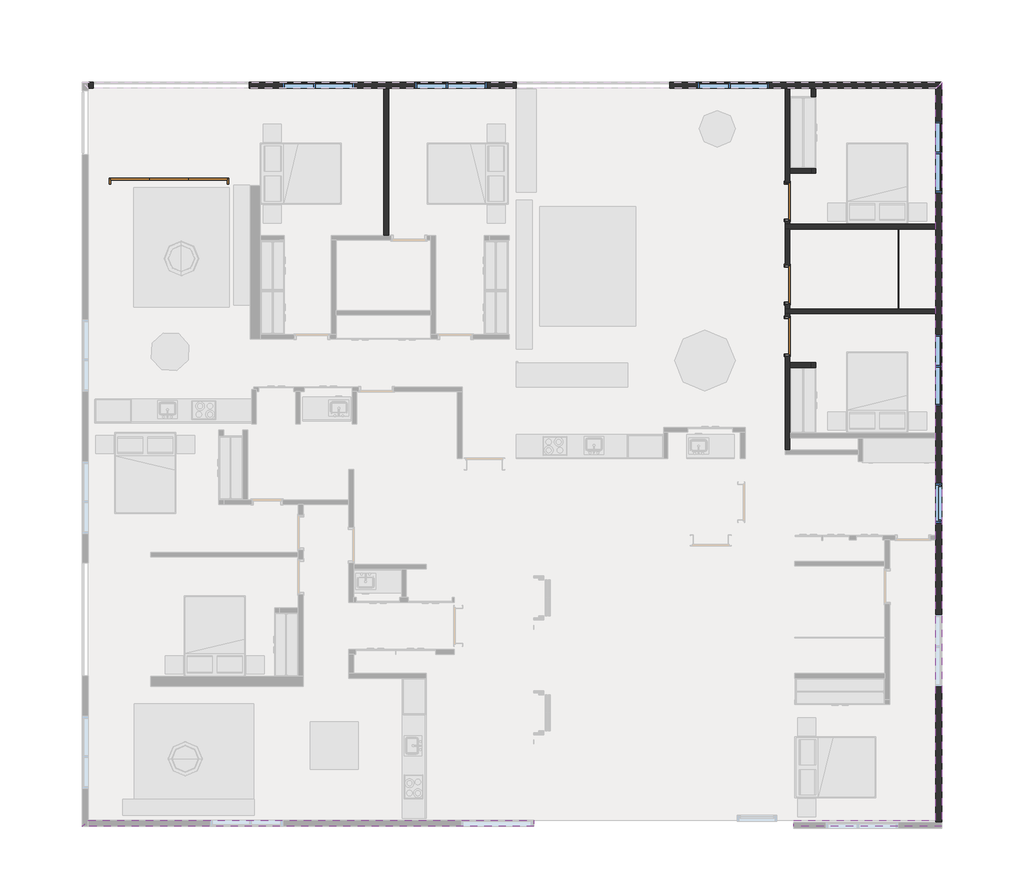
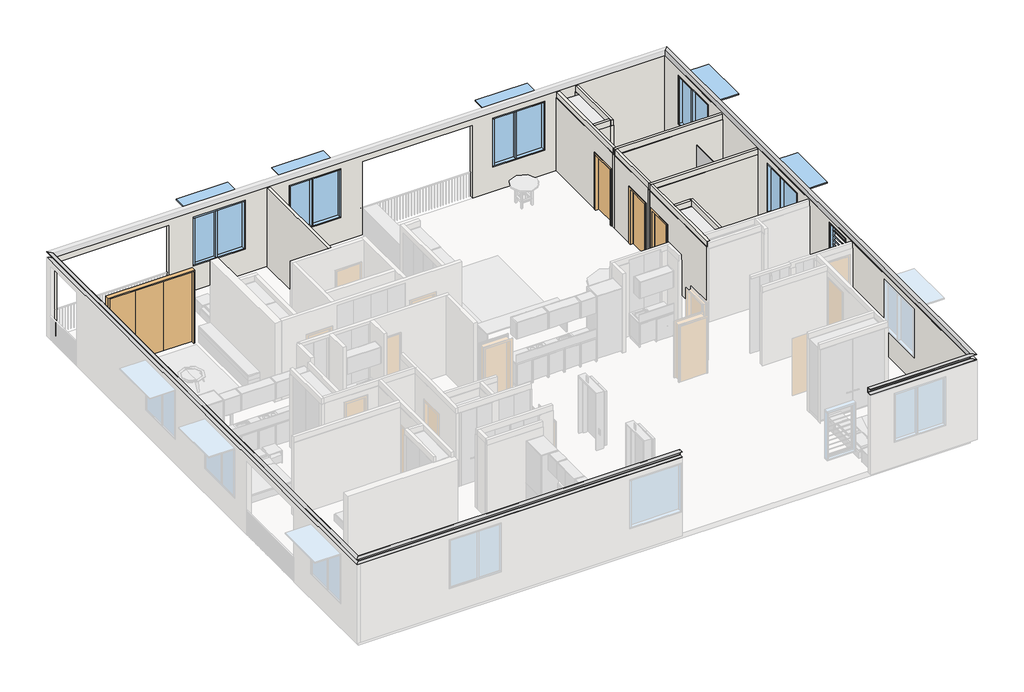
# One storey, part 3 of 5: 12 walls, 6 windows, 4 doors, 2 proxies, 1 plate.
"""IFC4 building model written with IfcOpenShell, lengths in millimetres."""

from ifc_helpers import new_model, si_unit, frame, origin, place, context, project, spatial, polyline, circle_curve, ellipse_curve, outline, extrude, faceted_brep, transform, mapped, element, save
from ifc_brep_helpers import plane_surface, revolved_surface, advanced_brep
from components import bi_fold_dor_3_panel_3000_dd6e1ca5, swing_metal_frame_single_dor_5afc5809, swing_metal_frame_single_dor_3c4be974, system_panel_glazed_1ea69d37, window_bottom_hung_window_bottom_hung_09912109, window_louvre_window_louvre_105a682d

model = new_model("IFC4")

# Units and contexts
model_context = context("Model", 3, world=origin())
ifc_project = project(units=[si_unit("LENGTHUNIT", "METRE", prefix="MILLI")], contexts=[model_context])

# Site, building, storey
site = spatial("IfcSite", under=ifc_project)
building = spatial("IfcBuilding", under=site)
storey = spatial("IfcBuildingStorey", under=building, Name="10階", Elevation=57800.0)

# Proxies
placement = place(None, origin())
element("IfcBuildingElementProxy", 1, Name="Slab Edge_PFC'", ObjectType="Slab Edge_PFC'", at=placement, inside=storey, context=model_context, shape_type="AdvancedBrep", body=[
    advanced_brep(
    [(23783.6171203, 18560.0, 60700.0), (23783.6171203, 18560.0, 60900.0), (23933.6171203, 18710.0, 60900.0), (23933.6171203, 18710.0, 60888.0), (23801.6171203, 18578.0, 60888.0), (23789.6171203, 18566.0, 60876.0), (23789.6171203, 18566.0, 60724.0), (23801.6171203, 18578.0, 60712.0), (23933.6171203, 18710.0, 60712.0), (23933.6171203, 18710.0, 60700.0), (23783.6171203, 189.0898177, 60700.0), (23783.6171203, 189.0898177, 60900.0), (23933.6171203, 39.0898177, 60700.0), (23933.6171203, 39.0898177, 60712.0), (23801.6171203, 171.0898177, 60712.0), (23789.6171203, 183.0898177, 60724.0), (23789.6171203, 183.0898177, 60876.0), (23801.6171203, 171.0898177, 60888.0), (23933.6171203, 39.0898177, 60888.0), (23933.6171203, 39.0898177, 60900.0), (20219.6062665, 189.0898177, 60900.0), (20219.6062665, 189.0898177, 60700.0), (20219.6062665, 39.0898177, 60700.0), (20219.6062665, 39.0898177, 60712.0), (20219.6062665, 171.0898177, 60712.0), (20219.6062665, 183.0898177, 60724.0), (20219.6062665, 183.0898177, 60876.0), (20219.6062665, 171.0898177, 60888.0), (20219.6062665, 39.0898177, 60888.0), (20219.6062665, 39.0898177, 60900.0)],
    [
        (0, 1),
        (1, 2),
        (2, 3),
        (3, 4),
        (4, 5, ellipse_curve(frame((23801.6171203, 18578.0, 60876.0), z_axis=(0.7071067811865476, -0.7071067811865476, 0.0), x_axis=(0.7071067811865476, 0.7071067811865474, 0.0)), 16.9705627, 12.0)),
        (5, 6),
        (6, 7, ellipse_curve(frame((23801.6171203, 18578.0, 60724.0), z_axis=(0.7071067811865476, -0.7071067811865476, 0.0), x_axis=(0.7071067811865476, 0.7071067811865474, 0.0)), 16.9705627, 12.0)),
        (7, 8),
        (8, 9),
        (9, 0),
        (10, 11),
        (11, 1),
        (0, 10),
        (12, 10),
        (9, 12),
        (13, 12),
        (8, 13),
        (14, 13),
        (7, 14),
        (15, 14, ellipse_curve(frame((23801.6171203, 171.0898177, 60724.0), z_axis=(-0.7071067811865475, -0.7071067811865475, 0.0), x_axis=(-0.7071067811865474, 0.7071067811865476, 0.0)), 16.9705627, 12.0)),
        (6, 15),
        (16, 15),
        (5, 16),
        (17, 16, ellipse_curve(frame((23801.6171203, 171.0898177, 60876.0), z_axis=(-0.7071067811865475, -0.7071067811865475, 0.0), x_axis=(-0.7071067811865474, 0.7071067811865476, 0.0)), 16.9705627, 12.0)),
        (4, 17),
        (18, 17),
        (3, 18),
        (19, 18),
        (2, 19),
        (11, 19),
        (20, 21),
        (21, 22),
        (22, 23),
        (23, 24),
        (24, 25, circle_curve(frame((20219.6062665, 171.0898177, 60724.0), z_axis=(1.0, 0.0, 0.0), x_axis=(0.0, -1.0, 0.0)), 12.0)),
        (25, 26),
        (26, 27, circle_curve(frame((20219.6062665, 171.0898177, 60876.0), z_axis=(1.0, 0.0, 0.0), x_axis=(0.0, -1.0, 0.0)), 12.0)),
        (27, 28),
        (28, 29),
        (29, 20),
        (10, 21),
        (20, 11),
        (12, 22),
        (13, 23),
        (14, 24),
        (15, 25),
        (16, 26),
        (17, 27),
        (18, 28),
        (19, 29),
    ],
    [
        plane_surface(frame((23783.6171203, 18560.0, 60900.0), z_axis=(-0.7071067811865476, 0.7071067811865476, 0.0), x_axis=(-0.7071067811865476, -0.7071067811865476, 0.0))),
        plane_surface(frame((23783.6171203, 189.0898177, 60900.0), z_axis=(-1.0, 0.0, 0.0), x_axis=(0.0, 1.0, 0.0))),
        plane_surface(frame((23783.6171203, 189.0898177, 60700.0), z_axis=(0.0, 0.0, -1.0), x_axis=(0.0, 1.0, 0.0))),
        plane_surface(frame((23933.6171203, 39.0898177, 60700.0), z_axis=(1.0, 0.0, 0.0), x_axis=(0.0, 1.0, 0.0))),
        plane_surface(frame((23933.6171203, 39.0898177, 60712.0), z_axis=(0.0, 0.0, 1.0), x_axis=(0.0, 1.0, 0.0))),
        revolved_surface(polyline([(23813.6171203, 18589.999999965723, 60724.0), (23813.6171203, 159.0898177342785, 60724.0)]), (23801.6171203, 189.0898177, 60724.0), (0.0, 1.0, 0.0)),
        plane_surface(frame((23789.6171203, 183.0898177, 60724.0), z_axis=(1.0, 0.0, 0.0), x_axis=(0.0, 1.0, 0.0))),
        revolved_surface(polyline([(23813.6171203, 18589.999999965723, 60876.0), (23813.6171203, 159.0898177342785, 60876.0)]), (23801.6171203, 189.0898177, 60876.0), (0.0, 1.0, 0.0)),
        plane_surface(frame((23801.6171203, 171.0898177, 60888.0), z_axis=(0.0, 0.0, -1.0), x_axis=(0.0, 1.0, 0.0))),
        plane_surface(frame((23933.6171203, 39.0898177, 60888.0), z_axis=(1.0, 0.0, 0.0), x_axis=(0.0, 1.0, 0.0))),
        plane_surface(frame((23933.6171203, 39.0898177, 60900.0), z_axis=(0.0, 0.0, 1.0), x_axis=(0.0, 1.0, 0.0))),
        plane_surface(frame((20219.6062665, 189.0898177, 60650.0), z_axis=(-1.0, 0.0, 0.0), x_axis=(0.0, 1.0, 0.0))),
        plane_surface(frame((20219.6062665, 189.0898177, 60900.0), z_axis=(0.0, 1.0, 0.0), x_axis=(1.0, 0.0, 0.0))),
        plane_surface(frame((20219.6062665, 189.0898177, 60700.0), z_axis=(0.0, 0.0, -1.0), x_axis=(1.0, 0.0, 0.0))),
        plane_surface(frame((20219.6062665, 39.0898177, 60700.0), z_axis=(0.0, -1.0, 0.0), x_axis=(1.0, 0.0, 0.0))),
        plane_surface(frame((20219.6062665, 39.0898177, 60712.0), z_axis=(0.0, 0.0, 1.0), x_axis=(1.0, 0.0, 0.0))),
        revolved_surface(polyline([(23813.617120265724, 159.0898177, 60724.0), (20219.6062665, 159.0898177, 60724.0)]), (20219.6062665, 171.0898177, 60724.0), (1.0, 0.0, 0.0)),
        plane_surface(frame((20219.6062665, 183.0898177, 60724.0), z_axis=(0.0, -1.0, 0.0), x_axis=(1.0, 0.0, 0.0))),
        revolved_surface(polyline([(23813.617120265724, 159.0898177, 60876.0), (20219.6062665, 159.0898177, 60876.0)]), (20219.6062665, 171.0898177, 60876.0), (1.0, 0.0, 0.0)),
        plane_surface(frame((20219.6062665, 171.0898177, 60888.0), z_axis=(0.0, 0.0, -1.0), x_axis=(1.0, 0.0, 0.0))),
        plane_surface(frame((20219.6062665, 39.0898177, 60888.0), z_axis=(0.0, -1.0, 0.0), x_axis=(1.0, 0.0, 0.0))),
        plane_surface(frame((20219.6062665, 39.0898177, 60900.0), z_axis=(0.0, 0.0, 1.0), x_axis=(1.0, 0.0, 0.0))),
    ],
    [
        (0, [[1, 2, 3, 4, 5, 6, 7, 8, 9, 10]]),
        (1, [[11, 12, -1, 13]]),
        (2, [[14, -13, -10, 15]]),
        (3, [[16, -15, -9, 17]]),
        (4, [[18, -17, -8, 19]]),
        (5, [[20, -19, -7, 21]]),
        (6, [[22, -21, -6, 23]]),
        (7, [[24, -23, -5, 25]]),
        (8, [[26, -25, -4, 27]]),
        (9, [[28, -27, -3, 29]]),
        (10, [[30, -29, -2, -12]]),
        (11, [[31, 32, 33, 34, 35, 36, 37, 38, 39, 40]]),
        (12, [[-11, 41, -31, 42]]),
        (13, [[-14, 43, -32, -41]]),
        (14, [[-16, 44, -33, -43]]),
        (15, [[-18, 45, -34, -44]]),
        (16, [[-20, 46, -35, -45]]),
        (17, [[-22, 47, -36, -46]]),
        (18, [[-24, 48, -37, -47]]),
        (19, [[-26, 49, -38, -48]]),
        (20, [[-28, 50, -39, -49]]),
        (21, [[-30, -42, -40, -50]]),
    ],
),
    advanced_brep(
    [(2519.6057353, 18560.0, 60900.0), (2519.6057353, 18560.0, 60700.0), (2369.6057353, 18710.0, 60700.0), (2369.6057353, 18710.0, 60712.0), (2501.6057353, 18578.0, 60712.0), (2513.6057353, 18566.0, 60724.0), (2513.6057353, 18566.0, 60876.0), (2501.6057353, 18578.0, 60888.0), (2369.6057353, 18710.0, 60888.0), (2369.6057353, 18710.0, 60900.0), (2519.6057353, 189.0898177, 60700.0), (2519.6057353, 189.0898177, 60900.0), (2369.6057353, 39.0898177, 60900.0), (2369.6057353, 39.0898177, 60888.0), (2501.6057353, 171.0898177, 60888.0), (2513.6057353, 183.0898177, 60876.0), (2513.6057353, 183.0898177, 60724.0), (2501.6057353, 171.0898177, 60712.0), (2369.6057353, 39.0898177, 60712.0), (2369.6057353, 39.0898177, 60700.0)],
    [
        (0, 1),
        (1, 2),
        (2, 3),
        (3, 4),
        (4, 5, ellipse_curve(frame((2501.6057353, 18578.0, 60724.0), z_axis=(-0.7071067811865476, -0.7071067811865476, 0.0), x_axis=(0.7071067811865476, -0.7071067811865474, 0.0)), 16.9705627, 12.0)),
        (5, 6),
        (6, 7, ellipse_curve(frame((2501.6057353, 18578.0, 60876.0), z_axis=(-0.7071067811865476, -0.7071067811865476, 0.0), x_axis=(0.7071067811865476, -0.7071067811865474, 0.0)), 16.9705627, 12.0)),
        (7, 8),
        (8, 9),
        (9, 0),
        (10, 11),
        (11, 12),
        (12, 13),
        (13, 14),
        (14, 15, ellipse_curve(frame((2501.6057353, 171.0898177, 60876.0), z_axis=(-0.7071067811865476, 0.7071067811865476, 0.0), x_axis=(-0.7071067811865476, -0.7071067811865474, 0.0)), 16.9705627, 12.0)),
        (15, 16),
        (16, 17, ellipse_curve(frame((2501.6057353, 171.0898177, 60724.0), z_axis=(-0.7071067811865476, 0.7071067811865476, 0.0), x_axis=(-0.7071067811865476, -0.7071067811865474, 0.0)), 16.9705627, 12.0)),
        (17, 18),
        (18, 19),
        (19, 10),
        (0, 11),
        (10, 1),
        (19, 2),
        (18, 3),
        (17, 4),
        (16, 5),
        (15, 6),
        (14, 7),
        (13, 8),
        (12, 9),
    ],
    [
        plane_surface(frame((2519.6057353, 18560.0, 60900.0), z_axis=(0.7071067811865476, 0.7071067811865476, 0.0), x_axis=(-0.7071067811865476, 0.7071067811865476, 0.0))),
        plane_surface(frame((2519.6057353, 189.0898177, 60900.0), z_axis=(0.7071067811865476, -0.7071067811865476, 0.0), x_axis=(0.7071067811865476, 0.7071067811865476, 0.0))),
        plane_surface(frame((2519.6057353, 18560.0, 60900.0), z_axis=(1.0, 0.0, 0.0), x_axis=(0.0, -1.0, 0.0))),
        plane_surface(frame((2519.6057353, 18560.0, 60700.0), z_axis=(0.0, 0.0, -1.0), x_axis=(0.0, -1.0, 0.0))),
        plane_surface(frame((2369.6057353, 18710.0, 60700.0), z_axis=(-1.0, 0.0, 0.0), x_axis=(0.0, -1.0, 0.0))),
        plane_surface(frame((2369.6057353, 18710.0, 60712.0), z_axis=(0.0, 0.0, 1.0), x_axis=(0.0, -1.0, 0.0))),
        revolved_surface(polyline([(2489.6057353, 159.08981773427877, 60724.0), (2489.6057353, 18589.999999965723, 60724.0)]), (2501.6057353, 18560.0, 60724.0), (0.0, -1.0, 0.0)),
        plane_surface(frame((2513.6057353, 18566.0, 60724.0), z_axis=(-1.0, 0.0, 0.0), x_axis=(0.0, -1.0, 0.0))),
        revolved_surface(polyline([(2489.6057353, 159.08981773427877, 60876.0), (2489.6057353, 18589.999999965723, 60876.0)]), (2501.6057353, 18560.0, 60876.0), (0.0, -1.0, 0.0)),
        plane_surface(frame((2501.6057353, 18578.0, 60888.0), z_axis=(0.0, 0.0, -1.0), x_axis=(0.0, -1.0, 0.0))),
        plane_surface(frame((2369.6057353, 18710.0, 60888.0), z_axis=(-1.0, 0.0, 0.0), x_axis=(0.0, -1.0, 0.0))),
        plane_surface(frame((2369.6057353, 18710.0, 60900.0), z_axis=(0.0, 0.0, 1.0), x_axis=(0.0, -1.0, 0.0))),
    ],
    [
        (0, [[1, 2, 3, 4, 5, 6, 7, 8, 9, 10]]),
        (1, [[11, 12, 13, 14, 15, 16, 17, 18, 19, 20]]),
        (2, [[-1, 21, -11, 22]]),
        (3, [[-2, -22, -20, 23]]),
        (4, [[-3, -23, -19, 24]]),
        (5, [[-4, -24, -18, 25]]),
        (6, [[-5, -25, -17, 26]]),
        (7, [[-6, -26, -16, 27]]),
        (8, [[-7, -27, -15, 28]]),
        (9, [[-8, -28, -14, 29]]),
        (10, [[-9, -29, -13, 30]]),
        (11, [[-10, -30, -12, -21]]),
    ],
),
])
element("IfcBuildingElementProxy", 2, Name="Slab Edge_PFC'", ObjectType="Slab Edge_PFC'", at=placement, inside=storey, context=model_context, shape_type="AdvancedBrep", body=[
    advanced_brep(
    [(2519.6057353, 189.0898177, 60900.0), (2519.6057353, 189.0898177, 60700.0), (2369.6057353, 39.0898177, 60700.0), (2369.6057353, 39.0898177, 60712.0), (2501.6057353, 171.0898177, 60712.0), (2513.6057353, 183.0898177, 60724.0), (2513.6057353, 183.0898177, 60876.0), (2501.6057353, 171.0898177, 60888.0), (2369.6057353, 39.0898177, 60888.0), (2369.6057353, 39.0898177, 60900.0), (13694.6062665, 189.0898177, 60900.0), (13694.6062665, 39.0898177, 60900.0), (13694.6062665, 39.0898177, 60888.0), (13694.6062665, 171.0898177, 60888.0), (13694.6062665, 183.0898177, 60876.0), (13694.6062665, 183.0898177, 60724.0), (13694.6062665, 171.0898177, 60712.0), (13694.6062665, 39.0898177, 60712.0), (13694.6062665, 39.0898177, 60700.0), (13694.6062665, 189.0898177, 60700.0)],
    [
        (0, 1),
        (1, 2),
        (2, 3),
        (3, 4),
        (4, 5, ellipse_curve(frame((2501.6057353, 171.0898177, 60724.0), z_axis=(0.7071067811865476, -0.7071067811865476, 0.0), x_axis=(0.7071067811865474, 0.7071067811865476, 0.0)), 16.9705627, 12.0)),
        (5, 6),
        (6, 7, ellipse_curve(frame((2501.6057353, 171.0898177, 60876.0), z_axis=(0.7071067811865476, -0.7071067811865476, 0.0), x_axis=(0.7071067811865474, 0.7071067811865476, 0.0)), 16.9705627, 12.0)),
        (7, 8),
        (8, 9),
        (9, 0),
        (10, 11),
        (11, 12),
        (12, 13),
        (13, 14, circle_curve(frame((13694.6062665, 171.0898177, 60876.0), z_axis=(-1.0, 0.0, 0.0), x_axis=(0.0, -1.0, 0.0)), 12.0)),
        (14, 15),
        (15, 16, circle_curve(frame((13694.6062665, 171.0898177, 60724.0), z_axis=(-1.0, 0.0, 0.0), x_axis=(0.0, -1.0, 0.0)), 12.0)),
        (16, 17),
        (17, 18),
        (18, 19),
        (19, 10),
        (0, 10),
        (19, 1),
        (18, 2),
        (17, 3),
        (16, 4),
        (15, 5),
        (14, 6),
        (13, 7),
        (12, 8),
        (11, 9),
    ],
    [
        plane_surface(frame((2519.6057353, 189.0898177, 60900.0), z_axis=(-0.7071067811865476, 0.7071067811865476, 0.0), x_axis=(-0.7071067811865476, -0.7071067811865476, 0.0))),
        plane_surface(frame((13694.6062665, 189.0898177, 60650.0), z_axis=(1.0, 0.0, 0.0), x_axis=(0.0, 1.0, 0.0))),
        plane_surface(frame((2519.6057353, 189.0898177, 60900.0), z_axis=(0.0, 1.0, 0.0), x_axis=(1.0, 0.0, 0.0))),
        plane_surface(frame((2519.6057353, 189.0898177, 60700.0), z_axis=(0.0, 0.0, -1.0), x_axis=(1.0, 0.0, 0.0))),
        plane_surface(frame((2369.6057353, 39.0898177, 60700.0), z_axis=(0.0, -1.0, 0.0), x_axis=(1.0, 0.0, 0.0))),
        plane_surface(frame((2369.6057353, 39.0898177, 60712.0), z_axis=(0.0, 0.0, 1.0), x_axis=(1.0, 0.0, 0.0))),
        revolved_surface(polyline([(13694.6062665, 159.0898177, 60724.0), (2489.6057353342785, 159.0898177, 60724.0)]), (2519.6057353, 171.0898177, 60724.0), (1.0, 0.0, 0.0)),
        plane_surface(frame((2513.6057353, 183.0898177, 60724.0), z_axis=(0.0, -1.0, 0.0), x_axis=(1.0, 0.0, 0.0))),
        revolved_surface(polyline([(13694.6062665, 159.0898177, 60876.0), (2489.6057353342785, 159.0898177, 60876.0)]), (2519.6057353, 171.0898177, 60876.0), (1.0, 0.0, 0.0)),
        plane_surface(frame((2501.6057353, 171.0898177, 60888.0), z_axis=(0.0, 0.0, -1.0), x_axis=(1.0, 0.0, 0.0))),
        plane_surface(frame((2369.6057353, 39.0898177, 60888.0), z_axis=(0.0, -1.0, 0.0), x_axis=(1.0, 0.0, 0.0))),
        plane_surface(frame((2369.6057353, 39.0898177, 60900.0), z_axis=(0.0, 0.0, 1.0), x_axis=(1.0, 0.0, 0.0))),
    ],
    [
        (0, [[1, 2, 3, 4, 5, 6, 7, 8, 9, 10]]),
        (1, [[11, 12, 13, 14, 15, 16, 17, 18, 19, 20]]),
        (2, [[-1, 21, -20, 22]]),
        (3, [[-2, -22, -19, 23]]),
        (4, [[-3, -23, -18, 24]]),
        (5, [[-4, -24, -17, 25]]),
        (6, [[-5, -25, -16, 26]]),
        (7, [[-6, -26, -15, 27]]),
        (8, [[-7, -27, -14, 28]]),
        (9, [[-8, -28, -13, 29]]),
        (10, [[-9, -29, -12, 30]]),
        (11, [[-10, -30, -11, -21]]),
    ],
),
])

# Doors
bi_fold_dor_3_panel_3000_shape = bi_fold_dor_3_panel_3000_dd6e1ca5(model_context)
element("IfcDoor", 3, ObjectType="Bi Fold_DOR : 3 Panel - 3000", at=placement, inside=storey, context=model_context, shape_type="MappedRepresentation", body=[
    mapped(bi_fold_dor_3_panel_3000_shape, transform((4544.6057353, 16224.7819979, 57800.0), x_axis=(1.0, 0.0, 0.0), y_axis=(0.0, 1.0, 0.0), z_axis=(0.0, 0.0, 1.0))),
])
swing_metal_frame_single_dor_shape = swing_metal_frame_single_dor_5afc5809(model_context)
element("IfcDoor", 4, ObjectType="Swing_Metal Frame_Single_DOR : 2040h x 920 (2110x1020 STUD)", at=placement, inside=storey, context=model_context, shape_type="MappedRepresentation", body=[
    mapped(swing_metal_frame_single_dor_shape, transform((20055.1062665, 12336.0199398, 57800.0), x_axis=(0.0, -1.0, 0.0), y_axis=(1.0, 0.0, 0.0), z_axis=(0.0, 0.0, 1.0))),
])
swing_metal_frame_single_dor_2_shape = swing_metal_frame_single_dor_3c4be974(model_context)
element("IfcDoor", 5, ObjectType="Swing_Metal Frame_Single_DOR : 2040h x 920 (2110x1020 STUD)", at=placement, inside=storey, context=model_context, shape_type="MappedRepresentation", body=[
    mapped(swing_metal_frame_single_dor_2_shape, transform((20055.1062665, 15718.9201216, 57800.0), x_axis=(0.0, 1.0, 0.0), y_axis=(-1.0, 0.0, 0.0), z_axis=(0.0, 0.0, 1.0))),
])
element("IfcDoor", 6, ObjectType="Swing_Metal Frame_Single_DOR : 2040h x 920 (2110x1020 STUD)", at=placement, inside=storey, context=model_context, shape_type="MappedRepresentation", body=[
    mapped(swing_metal_frame_single_dor_2_shape, transform((20055.1062665, 13634.0199398, 57800.0), x_axis=(0.0, 1.0, 0.0), y_axis=(-1.0, 0.0, 0.0), z_axis=(0.0, 0.0, 1.0))),
])

# Plate
system_panel_glazed_shape = system_panel_glazed_1ea69d37(model_context)
element("IfcPlate", 7, ObjectType="System Panel : Glazed", at=placement, inside=storey, context=model_context, shape_type="MappedRepresentation", body=[
    mapped(system_panel_glazed_shape, transform((22838.6171203, 14027.4700307, 57800.0), x_axis=(0.0, 1.0, 0.0), y_axis=(-1.0, 0.0, 0.0), z_axis=(0.0, 0.0, 1.0))),
])

# Walls
element("IfcWall", 8, ObjectType="Whte Paint Finish", at=placement, inside=storey, context=model_context, shape_type="Brep", body=[
    faceted_brep([(23923.6171203, 18710.0, 60700.0), (2519.6057353, 18710.0, 60700.0), (2519.6057353, 18560.0, 60700.0), (17124.4454006, 18560.0, 60700.0), (17274.4454006, 18560.0, 60700.0), (23773.6171203, 18560.0, 60700.0), (23923.6171203, 18560.0, 60700.0), (10717.1904782, 18560.0, 58700.0), (12517.1904782, 18560.0, 58700.0), (12517.1904782, 18710.0, 58700.0), (10717.1904782, 18710.0, 58700.0), (12517.1904782, 18560.0, 60500.0), (12517.1904782, 18710.0, 60500.0), (10717.1904782, 18560.0, 60500.0), (10717.1904782, 18710.0, 60500.0), (7389.6645991, 18560.0, 58700.0), (9189.6645991, 18560.0, 58700.0), (9189.6645991, 18710.0, 58700.0), (7389.6645991, 18710.0, 58700.0), (9189.6645991, 18560.0, 60500.0), (9189.6645991, 18710.0, 60500.0), (7389.6645991, 18560.0, 60500.0), (7389.6645991, 18710.0, 60500.0), (17799.4454006, 18560.0, 58700.0), (19599.4454006, 18560.0, 58700.0), (19599.4454006, 18710.0, 58700.0), (17799.4454006, 18710.0, 58700.0), (19599.4454006, 18560.0, 60500.0), (19599.4454006, 18710.0, 60500.0), (17799.4454006, 18560.0, 60500.0), (17799.4454006, 18710.0, 60500.0), (2519.6057353, 18560.0, 57800.0), (2639.6057353, 18560.0, 57800.0), (2639.6057353, 18560.0, 60500.0), (6554.6645991, 18560.0, 60500.0), (6554.6645991, 18560.0, 57800.0), (13253.9954006, 18560.0, 57800.0), (13253.9954006, 18560.0, 60500.0), (17099.4454006, 18560.0, 60500.0), (17099.4454006, 18560.0, 57800.0), (23773.6171203, 18560.0, 57800.0), (23923.6171203, 18560.0, 57800.0), (23923.6171203, 18710.0, 57800.0), (17099.4454006, 18710.0, 57800.0), (17099.4454006, 18710.0, 60500.0), (13253.9954006, 18710.0, 60500.0), (13253.9954006, 18710.0, 57800.0), (6554.6645991, 18710.0, 57800.0), (6554.6645991, 18710.0, 60500.0), (2639.6057353, 18710.0, 60500.0), (2639.6057353, 18710.0, 57800.0), (2519.6057353, 18710.0, 57800.0)], [[[0, 1, 2, 3, 4, 5, 6]], [[7, 8, 9, 10]], [[8, 11, 12, 9]], [[11, 13, 14, 12]], [[13, 7, 10, 14]], [[15, 16, 17, 18]], [[16, 19, 20, 17]], [[19, 21, 22, 20]], [[21, 15, 18, 22]], [[23, 24, 25, 26]], [[24, 27, 28, 25]], [[27, 29, 30, 28]], [[29, 23, 26, 30]], [[6, 5, 4, 3, 2, 31, 32, 33, 34, 35, 36, 37, 38, 39, 40, 41], [7, 13, 11, 8], [15, 21, 19, 16], [23, 29, 27, 24]], [[1, 0, 42, 43, 44, 45, 46, 47, 48, 49, 50, 51], [10, 9, 12, 14], [18, 17, 20, 22], [26, 25, 28, 30]], [[32, 31, 51, 50]], [[35, 47, 46, 36]], [[42, 41, 40, 39, 43]], [[49, 33, 32, 50]], [[34, 48, 47, 35]], [[33, 49, 48, 34]], [[45, 37, 36, 46]], [[38, 44, 43, 39]], [[37, 45, 44, 38]], [[31, 2, 1, 51]], [[6, 41, 42, 0]]]),
])
element("IfcWall", 9, ObjectType="Whte Paint Finish", at=placement, inside=storey, context=model_context, shape_type="Brep", body=[
    faceted_brep([(23923.6171203, 140.0, 60700.0), (23923.6171203, 18560.0, 60700.0), (23773.6171203, 18560.0, 60700.0), (23773.6171203, 7335.0, 60700.0), (23773.6171203, 7243.0, 60700.0), (23773.6171203, 140.0, 60700.0), (23773.6171203, 17735.0, 58700.0), (23773.6171203, 15935.0, 58700.0), (23923.6171203, 15935.0, 58700.0), (23923.6171203, 17735.0, 58700.0), (23773.6171203, 15935.0, 60500.0), (23923.6171203, 15935.0, 60500.0), (23773.6171203, 17735.0, 60500.0), (23923.6171203, 17735.0, 60500.0), (23773.6171203, 12382.5, 58700.0), (23773.6171203, 10582.5, 58700.0), (23923.6171203, 10582.5, 58700.0), (23923.6171203, 12382.5, 58700.0), (23773.6171203, 10582.5, 60500.0), (23923.6171203, 10582.5, 60500.0), (23773.6171203, 12382.5, 60500.0), (23923.6171203, 12382.5, 60500.0), (23923.6171203, 140.0, 57800.0), (23923.6171203, 18560.0, 57800.0), (23923.6171203, 5346.2680774, 58700.0), (23923.6171203, 3546.2680774, 58700.0), (23923.6171203, 3546.2680774, 60500.0), (23923.6171203, 5346.2680774, 60500.0), (23923.6171203, 8646.2738694, 58800.0), (23923.6171203, 7646.2738694, 58800.0), (23923.6171203, 7646.2738694, 60600.0), (23923.6171203, 8646.2738694, 60600.0), (23773.6171203, 140.0, 57800.0), (23773.6171203, 18560.0, 57800.0), (23773.6171203, 7335.0, 57800.0), (23773.6171203, 7230.0, 57800.0), (23773.6171203, 5346.2680774, 58700.0), (23773.6171203, 5346.2680774, 60500.0), (23773.6171203, 3546.2680774, 60500.0), (23773.6171203, 3546.2680774, 58700.0), (23773.6171203, 8646.2738694, 58800.0), (23773.6171203, 8646.2738694, 60600.0), (23773.6171203, 7646.2738694, 60600.0), (23773.6171203, 7646.2738694, 58800.0)], [[[0, 1, 2, 3, 4, 5]], [[6, 7, 8, 9]], [[7, 10, 11, 8]], [[10, 12, 13, 11]], [[12, 6, 9, 13]], [[14, 15, 16, 17]], [[15, 18, 19, 16]], [[18, 20, 21, 19]], [[20, 14, 17, 21]], [[22, 23, 1, 0], [9, 8, 11, 13], [17, 16, 19, 21], [24, 25, 26, 27], [28, 29, 30, 31]], [[32, 5, 4, 3, 2, 33, 34, 35], [6, 12, 10, 7], [14, 20, 18, 15], [36, 37, 38, 39], [40, 41, 42, 43]], [[23, 22, 32, 35, 34, 33]], [[22, 0, 5, 32]], [[1, 23, 33, 2]], [[37, 36, 24, 27]], [[38, 37, 27, 26]], [[39, 38, 26, 25]], [[36, 39, 25, 24]], [[41, 40, 28, 31]], [[42, 41, 31, 30]], [[43, 42, 30, 29]], [[40, 43, 29, 28]]]),
])
element("IfcWall", 10, ObjectType="P1 - Partition Type 1", at=placement, inside=storey, context=model_context, shape_type="SweptSolid", body=[
    extrude(outline(polyline([(9934.4954006, 14863.7386418), (9934.4954006, 18535.0), (10052.4954006, 18535.0), (10052.4954006, 14863.7386418), (9934.4954006, 14863.7386418)])), frame((0.0, 0.0, 57800.0), z_axis=(0.0, 0.0, 1.0), x_axis=(1.0, 0.0, 0.0)), (0.0, 0.0, 1.0), 2900.0),
])
element("IfcWall", 11, ObjectType="P1 - Partition Type 1", at=placement, inside=storey, context=model_context, shape_type="Brep", body=[
    faceted_brep([(19996.1062665, 12906.0199398, 57800.0), (20114.1062665, 12906.0199398, 57800.0), (23748.6171203, 12906.0199398, 57800.0), (23748.6171203, 12906.0199398, 60500.0), (20114.1062665, 12906.0199398, 60500.0), (19996.1062665, 12906.0199398, 60500.0), (23748.6171203, 13024.0199398, 57800.0), (20114.1062665, 13024.0199398, 57800.0), (19996.1062665, 13024.0199398, 57800.0), (19996.1062665, 13024.0199398, 60500.0), (20114.1062665, 13024.0199398, 60500.0), (23748.6171203, 13024.0199398, 60500.0), (23748.6171203, 13011.0199398, 60500.0), (23748.6171203, 13011.0199398, 60700.0), (23748.6171203, 12919.0199398, 60700.0), (23748.6171203, 12919.0199398, 60500.0), (20101.1062665, 12919.0199398, 60500.0), (20009.1062665, 12919.0199398, 60500.0), (20009.1062665, 13011.0199398, 60500.0), (20101.1062665, 13011.0199398, 60500.0), (20009.1062665, 13011.0199398, 60700.0), (20101.1062665, 13011.0199398, 60700.0), (20101.1062665, 12919.0199398, 60700.0), (20009.1062665, 12919.0199398, 60700.0)], [[[0, 1, 2, 3, 4, 5]], [[6, 7, 8, 9, 10, 11]], [[2, 1, 0, 8, 7, 6]], [[3, 2, 6, 11, 12, 13, 14, 15]], [[11, 10, 9, 5, 4, 3, 15, 16, 17, 18, 19, 12]], [[13, 12, 19, 18, 20, 21]], [[15, 14, 22, 23, 17, 16]], [[14, 13, 21, 20, 23, 22]], [[0, 5, 9, 8]], [[18, 17, 23, 20]]]),
])
element("IfcWall", 12, ObjectType="P1 - Partition Type 1", at=placement, inside=storey, context=model_context, shape_type="Brep", body=[
    faceted_brep([(20114.1062665, 12906.0199398, 60500.0), (20114.1062665, 11674.0199398, 60500.0), (20114.1062665, 11556.0199398, 60500.0), (20114.1062665, 9906.0199398, 60500.0), (20114.1062665, 9788.0199398, 60500.0), (20114.1062665, 9487.0199398, 60500.0), (20114.1062665, 9487.0199398, 57800.0), (20114.1062665, 9788.0199398, 57800.0), (20114.1062665, 9906.0199398, 57800.0), (20114.1062665, 11556.0199398, 57800.0), (20114.1062665, 11674.0199398, 57800.0), (20114.1062665, 11846.0199398, 57800.0), (20114.1062665, 11846.0199398, 59890.0), (20114.1062665, 12826.0199398, 59890.0), (20114.1062665, 12826.0199398, 57800.0), (20114.1062665, 12906.0199398, 57800.0), (19996.1062665, 9487.0199398, 60500.0), (19996.1062665, 12906.0199398, 60500.0), (19996.1062665, 12906.0199398, 57800.0), (19996.1062665, 12826.0199398, 57800.0), (19996.1062665, 12826.0199398, 59890.0), (19996.1062665, 11846.0199398, 59890.0), (19996.1062665, 11846.0199398, 57800.0), (19996.1062665, 9487.0199398, 57800.0), (20009.1062665, 9487.0199398, 60500.0), (20009.1062665, 12906.0199398, 60500.0), (20009.1062665, 9474.0199398, 60500.0), (20009.1062665, 9474.0199398, 60700.0), (20009.1062665, 12919.0199398, 60700.0), (20009.1062665, 12919.0199398, 60500.0), (20101.1062665, 12906.0199398, 60500.0), (20101.1062665, 11661.0199398, 60500.0), (20101.1062665, 11569.0199398, 60500.0), (20101.1062665, 9893.0199398, 60500.0), (20101.1062665, 9801.0199398, 60500.0), (20101.1062665, 9487.0199398, 60500.0), (20101.1062665, 12919.0199398, 60500.0), (20101.1062665, 12919.0199398, 60700.0), (20101.1062665, 11661.0199398, 60700.0), (20101.1062665, 11569.0199398, 60700.0), (20101.1062665, 9893.0199398, 60700.0), (20101.1062665, 9801.0199398, 60700.0), (20101.1062665, 9474.0199398, 60700.0), (20101.1062665, 9474.0199398, 60500.0)], [[[0, 1, 2, 3, 4, 5, 6, 7, 8, 9, 10, 11, 12, 13, 14, 15]], [[16, 17, 18, 19, 20, 21, 22, 23]], [[18, 15, 14, 19]], [[6, 23, 22, 11, 10, 9, 8, 7]], [[17, 16, 24, 25]], [[25, 24, 26, 27, 28, 29]], [[5, 4, 3, 2, 1, 0, 30, 31, 32, 33, 34, 35]], [[35, 34, 33, 32, 31, 30, 36, 37, 38, 39, 40, 41, 42, 43]], [[0, 15, 18, 17, 25, 30]], [[37, 28, 27, 42, 41, 40, 39, 38]], [[36, 30, 25, 29]], [[28, 37, 36, 29]], [[21, 12, 11, 22]], [[12, 21, 20, 13]], [[13, 20, 19, 14]], [[6, 5, 35, 24, 16, 23]], [[26, 24, 35, 43]], [[42, 27, 26, 43]]]),
])
element("IfcWall", 13, ObjectType="P1 - Partition Type 1", at=placement, inside=storey, context=model_context, shape_type="Brep", body=[
    faceted_brep([(19996.1062665, 13024.0199398, 60500.0), (19996.1062665, 15030.9201216, 60500.0), (19996.1062665, 15030.9201216, 57800.0), (19996.1062665, 14124.0199398, 57800.0), (19996.1062665, 14124.0199398, 59890.0), (19996.1062665, 13144.0199398, 59890.0), (19996.1062665, 13144.0199398, 57800.0), (19996.1062665, 13024.0199398, 57800.0), (20114.1062665, 15030.9201216, 60500.0), (20114.1062665, 13024.0199398, 60500.0), (20114.1062665, 13024.0199398, 57800.0), (20114.1062665, 13144.0199398, 57800.0), (20114.1062665, 13144.0199398, 59890.0), (20114.1062665, 14124.0199398, 59890.0), (20114.1062665, 14124.0199398, 57800.0), (20114.1062665, 15030.9201216, 57800.0), (20101.1062665, 15030.9201216, 60500.0), (20101.1062665, 13024.0199398, 60500.0), (20101.1062665, 15043.9201216, 60500.0), (20101.1062665, 15043.9201216, 60700.0), (20101.1062665, 13011.0199398, 60700.0), (20101.1062665, 13011.0199398, 60500.0), (20009.1062665, 13024.0199398, 60500.0), (20009.1062665, 15030.9201216, 60500.0), (20009.1062665, 13011.0199398, 60500.0), (20009.1062665, 13011.0199398, 60700.0), (20009.1062665, 15043.9201216, 60700.0), (20009.1062665, 15043.9201216, 60500.0)], [[[0, 1, 2, 3, 4, 5, 6, 7]], [[8, 9, 10, 11, 12, 13, 14, 15]], [[2, 15, 14, 3]], [[10, 7, 6, 11]], [[9, 8, 16, 17]], [[17, 16, 18, 19, 20, 21]], [[1, 0, 22, 23]], [[23, 22, 24, 25, 26, 27]], [[2, 1, 23, 16, 8, 15]], [[18, 16, 23, 27]], [[26, 19, 18, 27]], [[0, 7, 10, 9, 17, 22]], [[19, 26, 25, 20]], [[24, 22, 17, 21]], [[20, 25, 24, 21]], [[13, 4, 3, 14]], [[4, 13, 12, 5]], [[5, 12, 11, 6]]]),
])
element("IfcWall", 14, ObjectType="P1 - Partition Type 1", at=placement, inside=storey, context=model_context, shape_type="Brep", body=[
    faceted_brep([(19996.1062665, 15030.9201216, 57800.0), (20114.1062665, 15030.9201216, 57800.0), (23748.6171203, 15030.9201216, 57800.0), (23748.6171203, 15030.9201216, 60500.0), (20114.1062665, 15030.9201216, 60500.0), (19996.1062665, 15030.9201216, 60500.0), (23748.6171203, 15148.9201216, 57800.0), (20114.1062665, 15148.9201216, 57800.0), (19996.1062665, 15148.9201216, 57800.0), (19996.1062665, 15148.9201216, 60500.0), (20114.1062665, 15148.9201216, 60500.0), (23748.6171203, 15148.9201216, 60500.0), (23748.6171203, 15135.9201216, 60500.0), (23748.6171203, 15135.9201216, 60700.0), (23748.6171203, 15043.9201216, 60700.0), (23748.6171203, 15043.9201216, 60500.0), (20101.1062665, 15043.9201216, 60500.0), (20009.1062665, 15043.9201216, 60500.0), (20009.1062665, 15135.9201216, 60500.0), (20101.1062665, 15135.9201216, 60500.0), (20009.1062665, 15135.9201216, 60700.0), (20101.1062665, 15135.9201216, 60700.0), (20101.1062665, 15043.9201216, 60700.0), (20009.1062665, 15043.9201216, 60700.0)], [[[0, 1, 2, 3, 4, 5]], [[6, 7, 8, 9, 10, 11]], [[2, 1, 0, 8, 7, 6]], [[3, 2, 6, 11, 12, 13, 14, 15]], [[11, 10, 9, 5, 4, 3, 15, 16, 17, 18, 19, 12]], [[13, 12, 19, 18, 20, 21]], [[15, 14, 22, 23, 17, 16]], [[14, 13, 21, 20, 23, 22]], [[0, 5, 9, 8]], [[18, 17, 23, 20]]]),
])
element("IfcWall", 15, ObjectType="P1 - Partition Type 1", at=placement, inside=storey, context=model_context, shape_type="Brep", body=[
    faceted_brep([(20773.1062665, 18535.0, 57800.0), (20773.1062665, 18535.0, 60500.0), (20773.1062665, 18348.9201216, 60500.0), (20773.1062665, 18348.9201216, 57800.0), (20773.1062665, 16430.9201216, 60500.0), (20773.1062665, 16430.9201216, 57800.0), (20773.1062665, 16548.9201216, 57800.0), (20773.1062665, 16548.9201216, 60500.0), (20655.1062665, 18535.0, 60500.0), (20655.1062665, 18535.0, 57800.0), (20655.1062665, 18348.9201216, 57800.0), (20655.1062665, 18348.9201216, 60500.0), (20655.1062665, 16430.9201216, 57800.0), (20655.1062665, 16430.9201216, 60500.0), (20655.1062665, 16548.9201216, 60500.0), (20655.1062665, 16548.9201216, 57800.0), (20668.1062665, 18535.0, 60500.0), (20668.1062665, 18535.0, 60700.0), (20760.1062665, 18535.0, 60700.0), (20760.1062665, 18535.0, 60500.0), (20668.1062665, 18348.9201216, 60500.0), (20760.1062665, 18348.9201216, 60500.0), (20760.1062665, 16443.9201216, 60500.0), (20668.1062665, 16443.9201216, 60500.0), (20668.1062665, 16535.9201216, 60500.0), (20668.1062665, 16548.9201216, 60500.0), (20760.1062665, 16548.9201216, 60500.0), (20668.1062665, 16443.9201216, 60700.0), (20668.1062665, 16535.9201216, 60700.0), (20760.1062665, 16443.9201216, 60700.0)], [[[0, 1, 2, 3]], [[4, 5, 6, 7]], [[8, 9, 10, 11]], [[12, 13, 14, 15]], [[9, 0, 3, 10]], [[5, 12, 15, 6]], [[1, 0, 9, 8, 16, 17, 18, 19]], [[16, 8, 11, 20]], [[1, 19, 21, 2]], [[22, 23, 24, 25, 14, 13, 4, 7, 26]], [[17, 16, 20, 25, 24, 23, 27, 28]], [[19, 18, 29, 22, 26, 21]], [[18, 17, 28, 27, 29]], [[20, 21, 26, 25]], [[21, 20, 11, 10, 3, 2]], [[25, 26, 7, 6, 15, 14]], [[5, 4, 13, 12]], [[23, 22, 29, 27]]]),
])
element("IfcWall", 16, ObjectType="P1 - Partition Type 1", at=placement, inside=storey, context=model_context, shape_type="Brep", body=[
    faceted_brep([(20114.1062665, 18535.0, 57800.0), (20114.1062665, 18535.0, 60500.0), (20114.1062665, 16548.9201216, 60500.0), (20114.1062665, 16430.9201216, 60500.0), (20114.1062665, 15148.9201216, 60500.0), (20114.1062665, 15148.9201216, 57800.0), (20114.1062665, 15228.9201216, 57800.0), (20114.1062665, 15228.9201216, 59890.0), (20114.1062665, 16208.9201216, 59890.0), (20114.1062665, 16208.9201216, 57800.0), (20114.1062665, 16430.9201216, 57800.0), (20114.1062665, 16548.9201216, 57800.0), (19996.1062665, 18535.0, 60500.0), (19996.1062665, 18535.0, 57800.0), (19996.1062665, 16208.9201216, 57800.0), (19996.1062665, 16208.9201216, 59890.0), (19996.1062665, 15228.9201216, 59890.0), (19996.1062665, 15228.9201216, 57800.0), (19996.1062665, 15148.9201216, 57800.0), (19996.1062665, 15148.9201216, 60500.0), (20009.1062665, 18535.0, 60500.0), (20009.1062665, 18535.0, 60700.0), (20101.1062665, 18535.0, 60700.0), (20101.1062665, 18535.0, 60500.0), (20009.1062665, 15148.9201216, 60500.0), (20009.1062665, 15135.9201216, 60500.0), (20009.1062665, 15135.9201216, 60700.0), (20101.1062665, 16535.9201216, 60500.0), (20101.1062665, 16443.9201216, 60500.0), (20101.1062665, 15148.9201216, 60500.0), (20101.1062665, 16535.9201216, 60700.0), (20101.1062665, 16443.9201216, 60700.0), (20101.1062665, 15135.9201216, 60700.0), (20101.1062665, 15135.9201216, 60500.0)], [[[0, 1, 2, 3, 4, 5, 6, 7, 8, 9, 10, 11]], [[12, 13, 14, 15, 16, 17, 18, 19]], [[13, 0, 11, 10, 9, 14]], [[5, 18, 17, 6]], [[1, 0, 13, 12, 20, 21, 22, 23]], [[12, 19, 24, 20]], [[20, 24, 25, 26, 21]], [[4, 3, 2, 1, 23, 27, 28, 29]], [[29, 28, 27, 23, 22, 30, 31, 32, 33]], [[22, 21, 26, 32, 31, 30]], [[5, 4, 29, 24, 19, 18]], [[25, 24, 29, 33]], [[32, 26, 25, 33]], [[8, 15, 14, 9]], [[15, 8, 7, 16]], [[16, 7, 6, 17]]]),
])
element("IfcWall", 17, ObjectType="P1 - Partition Type 1", at=placement, inside=storey, context=model_context, shape_type="Brep", body=[
    faceted_brep([(20114.1062665, 16430.9201216, 57800.0), (20655.1062665, 16430.9201216, 57800.0), (20655.1062665, 16430.9201216, 60500.0), (20114.1062665, 16430.9201216, 60500.0), (20655.1062665, 16548.9201216, 57800.0), (20114.1062665, 16548.9201216, 57800.0), (20114.1062665, 16548.9201216, 60500.0), (20655.1062665, 16548.9201216, 60500.0), (20114.1062665, 16535.9201216, 60500.0), (20655.1062665, 16535.9201216, 60500.0), (20101.1062665, 16535.9201216, 60500.0), (20101.1062665, 16535.9201216, 60700.0), (20668.1062665, 16535.9201216, 60700.0), (20668.1062665, 16535.9201216, 60500.0), (20655.1062665, 16443.9201216, 60500.0), (20114.1062665, 16443.9201216, 60500.0), (20668.1062665, 16443.9201216, 60500.0), (20668.1062665, 16443.9201216, 60700.0), (20101.1062665, 16443.9201216, 60700.0), (20101.1062665, 16443.9201216, 60500.0)], [[[0, 1, 2, 3]], [[4, 5, 6, 7]], [[1, 0, 5, 4]], [[7, 6, 8, 9]], [[9, 8, 10, 11, 12, 13]], [[3, 2, 14, 15]], [[15, 14, 16, 17, 18, 19]], [[0, 3, 15, 8, 6, 5]], [[10, 8, 15, 19]], [[18, 11, 10, 19]], [[2, 1, 4, 7, 9, 14]], [[18, 17, 12, 11]], [[16, 14, 9, 13]], [[12, 17, 16, 13]]]),
])
element("IfcWall", 18, ObjectType="P1 - Partition Type 1", at=placement, inside=storey, context=model_context, shape_type="Brep", body=[
    faceted_brep([(20655.1062665, 11674.0199398, 60500.0), (20655.1062665, 11674.0199398, 57800.0), (20655.1062665, 11556.0199398, 57800.0), (20655.1062665, 11556.0199398, 60500.0), (20773.1062665, 11674.0199398, 57800.0), (20773.1062665, 11674.0199398, 60500.0), (20773.1062665, 11556.0199398, 60500.0), (20773.1062665, 11556.0199398, 57800.0), (20760.1062665, 9906.0199398, 60500.0), (20760.1062665, 9906.0199398, 60700.0), (20668.1062665, 9906.0199398, 60700.0), (20668.1062665, 9906.0199398, 60500.0), (20668.1062665, 11661.0199398, 60500.0), (20760.1062665, 11661.0199398, 60500.0), (20760.1062665, 11556.0199398, 60500.0), (20668.1062665, 11556.0199398, 60500.0), (20668.1062665, 11569.0199398, 60500.0), (20760.1062665, 11661.0199398, 60700.0), (20668.1062665, 11569.0199398, 60700.0), (20668.1062665, 11661.0199398, 60700.0)], [[[0, 1, 2, 3]], [[4, 5, 6, 7]], [[1, 4, 7, 2]], [[8, 9, 10, 11]], [[12, 13, 14, 6, 5, 0, 3, 15, 16]], [[9, 8, 14, 13, 17]], [[11, 10, 18, 19, 12, 16, 15]], [[10, 9, 17, 19, 18]], [[15, 14, 8, 11]], [[14, 15, 3, 2, 7, 6]], [[1, 0, 5, 4]], [[13, 12, 19, 17]]]),
])
element("IfcWall", 19, ObjectType="P1 - Partition Type 1", at=placement, inside=storey, context=model_context, shape_type="Brep", body=[
    faceted_brep([(20114.1062665, 11556.0199398, 57800.0), (20655.1062665, 11556.0199398, 57800.0), (20655.1062665, 11556.0199398, 60500.0), (20114.1062665, 11556.0199398, 60500.0), (20655.1062665, 11674.0199398, 57800.0), (20114.1062665, 11674.0199398, 57800.0), (20114.1062665, 11674.0199398, 60500.0), (20655.1062665, 11674.0199398, 60500.0), (20114.1062665, 11661.0199398, 60500.0), (20655.1062665, 11661.0199398, 60500.0), (20101.1062665, 11661.0199398, 60500.0), (20101.1062665, 11661.0199398, 60700.0), (20668.1062665, 11661.0199398, 60700.0), (20668.1062665, 11661.0199398, 60500.0), (20655.1062665, 11569.0199398, 60500.0), (20114.1062665, 11569.0199398, 60500.0), (20668.1062665, 11569.0199398, 60500.0), (20668.1062665, 11569.0199398, 60700.0), (20101.1062665, 11569.0199398, 60700.0), (20101.1062665, 11569.0199398, 60500.0)], [[[0, 1, 2, 3]], [[4, 5, 6, 7]], [[1, 0, 5, 4]], [[7, 6, 8, 9]], [[9, 8, 10, 11, 12, 13]], [[3, 2, 14, 15]], [[15, 14, 16, 17, 18, 19]], [[2, 1, 4, 7, 9, 14]], [[18, 17, 12, 11]], [[16, 14, 9, 13]], [[12, 17, 16, 13]], [[0, 3, 15, 8, 6, 5]], [[10, 8, 15, 19]], [[18, 11, 10, 19]]]),
])

# Windows
window_bottom_hung_window_bottom_hung_shape = window_bottom_hung_window_bottom_hung_09912109(model_context)
element("IfcWindow", 20, ObjectType="Window_Bottom Hung : Window_Bottom Hung", at=placement, inside=storey, context=model_context, shape_type="MappedRepresentation", body=[
    mapped(window_bottom_hung_window_bottom_hung_shape, transform((11617.1904782, 18635.0, 57700.0), x_axis=(1.0, 0.0, 0.0), y_axis=(0.0, 1.0, 0.0), z_axis=(0.0, 0.0, 1.0))),
])
element("IfcWindow", 21, ObjectType="Window_Bottom Hung : Window_Bottom Hung", at=placement, inside=storey, context=model_context, shape_type="MappedRepresentation", body=[
    mapped(window_bottom_hung_window_bottom_hung_shape, transform((8289.6645991, 18635.0, 57700.0), x_axis=(1.0, 0.0, 0.0), y_axis=(0.0, 1.0, 0.0), z_axis=(0.0, 0.0, 1.0))),
])
element("IfcWindow", 22, ObjectType="Window_Bottom Hung : Window_Bottom Hung", at=placement, inside=storey, context=model_context, shape_type="MappedRepresentation", body=[
    mapped(window_bottom_hung_window_bottom_hung_shape, transform((18699.4454006, 18635.0, 57700.0), x_axis=(1.0, 0.0, 0.0), y_axis=(0.0, 1.0, 0.0), z_axis=(0.0, 0.0, 1.0))),
])
element("IfcWindow", 23, ObjectType="Window_Bottom Hung : Window_Bottom Hung", at=placement, inside=storey, context=model_context, shape_type="MappedRepresentation", body=[
    mapped(window_bottom_hung_window_bottom_hung_shape, transform((23848.6171203, 16835.0, 57700.0), x_axis=(0.0, -1.0, 0.0), y_axis=(1.0, 0.0, 0.0), z_axis=(0.0, 0.0, 1.0))),
])
element("IfcWindow", 24, ObjectType="Window_Bottom Hung : Window_Bottom Hung", at=placement, inside=storey, context=model_context, shape_type="MappedRepresentation", body=[
    mapped(window_bottom_hung_window_bottom_hung_shape, transform((23848.6171203, 11482.5, 57700.0), x_axis=(0.0, -1.0, 0.0), y_axis=(1.0, 0.0, 0.0), z_axis=(0.0, 0.0, 1.0))),
])
window_louvre_window_louvre_shape = window_louvre_window_louvre_105a682d(model_context)
element("IfcWindow", 25, ObjectType="Window_Louvre : Window_Louvre", at=placement, inside=storey, context=model_context, shape_type="MappedRepresentation", body=[
    mapped(window_louvre_window_louvre_shape, transform((23848.6171203, 8146.2738694, 58200.0), x_axis=(0.0, -1.0, 0.0), y_axis=(1.0, 0.0, 0.0), z_axis=(0.0, 0.0, 1.0))),
])

save(model, "model.ifc")
